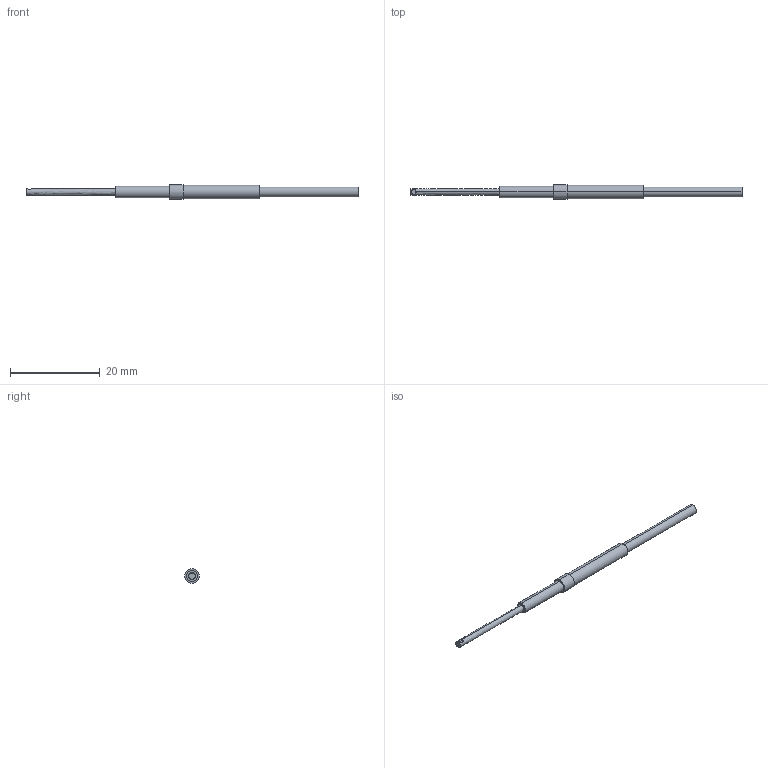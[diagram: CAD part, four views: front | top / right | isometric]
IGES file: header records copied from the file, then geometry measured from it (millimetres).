
Start section: SolidWorks IGES FILE using analytic representation for surfaces
Global section: file name: \\intra-srv04\開発データ\CAD_Data\CAD委員会\3D電子ｶﾀﾛｸﾞ\製品カタログ（新）\0_IGES\FT-SFM2SV2.IGS,41HSolidWorks 2004; native system: by SolidWorks Corporation; preprocessor: Version 5.3; author: mf1158; date: 050908.112455; units: millimetre
Bounding box: 74 x 3.3 x 3.3 mm (x, y, z)
Volume: 323.5 mm3; surface area: 549.5 mm2
Topology: 1 solids, 1 shells, 19 faces, 37 edges, 24 vertices
Faces by surface type: revolution 12, plane 7
